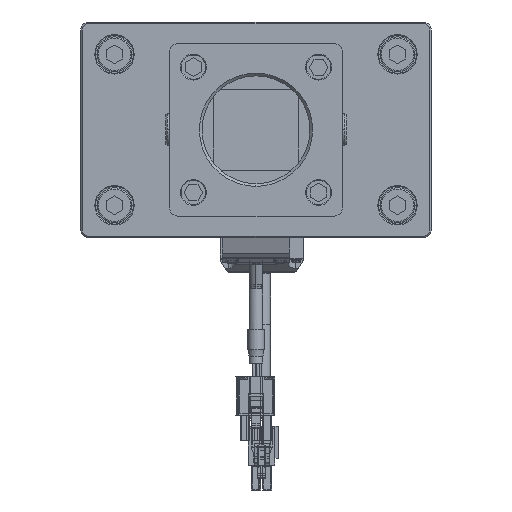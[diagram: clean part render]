
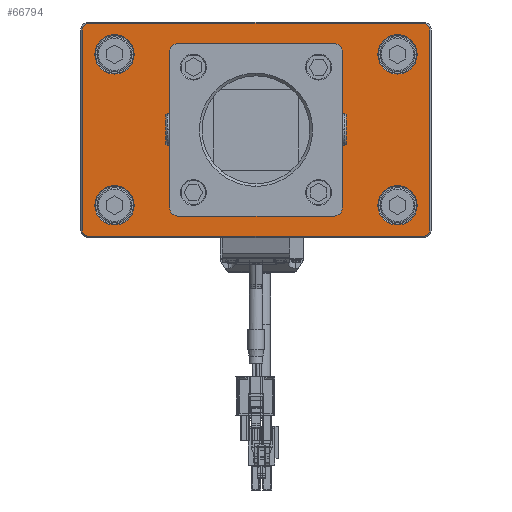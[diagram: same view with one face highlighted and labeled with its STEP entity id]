
A CAD part, front view. The second image highlights one B-rep face of the part: STEP entity #66794.
In plain terms, the highlighted planar face has unit normal (0, -1, 0) as drawn and (0, 1, 0) by its records, which use the part's own axes.
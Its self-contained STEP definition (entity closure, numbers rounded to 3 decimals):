
#65246=CARTESIAN_POINT('',(0.,7.,0.));
#65247=DIRECTION('',(0.,-1.,0.));
#65248=DIRECTION('',(1.,0.,0.));
#65249=AXIS2_PLACEMENT_3D('',#65246,#65247,#65248);
#65251=CARTESIAN_POINT('',(0.,7.,0.));
#65252=DIRECTION('',(0.,-1.,0.));
#65253=DIRECTION('',(-1.,0.,0.));
#65254=AXIS2_PLACEMENT_3D('',#65251,#65252,#65253);
#65256=CARTESIAN_POINT('',(-62.,7.,-37.));
#65257=DIRECTION('',(0.,1.,0.));
#65258=DIRECTION('',(0.,0.,-1.));
#65259=AXIS2_PLACEMENT_3D('',#65256,#65257,#65258);
#65261=DIRECTION('',(-1.,0.,0.));
#65262=VECTOR('',#65261,124.);
#65263=CARTESIAN_POINT('',(62.,7.,
-39.5));
#65264=LINE('',#65263,#65262);
#65265=CARTESIAN_POINT('',(62.,7.,-37.));
#65266=DIRECTION('',(0.,1.,0.));
#65267=DIRECTION('',(1.,0.,0.));
#65268=AXIS2_PLACEMENT_3D('',#65265,#65266,#65267);
#65270=DIRECTION('',(0.,0.,-1.));
#65271=VECTOR('',#65270,74.);
#65272=CARTESIAN_POINT('',(64.5,7.,37.));
#65273=LINE('',#65272,#65271);
#65274=CARTESIAN_POINT('',(62.,7.,37.));
#65275=DIRECTION('',(0.,1.,0.));
#65276=DIRECTION('',(0.,0.,1.));
#65277=AXIS2_PLACEMENT_3D('',#65274,#65275,#65276);
#65279=DIRECTION('',(1.,0.,0.));
#65280=VECTOR('',#65279,124.);
#65281=CARTESIAN_POINT('',(-62.,7.,
39.5));
#65282=LINE('',#65281,#65280);
#65283=CARTESIAN_POINT('',(-62.,7.,37.));
#65284=DIRECTION('',(0.,1.,0.));
#65285=DIRECTION('',(-1.,0.,0.));
#65286=AXIS2_PLACEMENT_3D('',#65283,#65284,#65285);
#65288=DIRECTION('',(0.,0.,1.));
#65289=VECTOR('',#65288,74.);
#65290=CARTESIAN_POINT('',(-64.5,7.,
-37.));
#65291=LINE('',#65290,#65289);
#65292=CARTESIAN_POINT('',(52.5,7.,28.));
#65293=DIRECTION('',(0.,-1.,0.));
#65294=DIRECTION('',(1.,0.,0.));
#65295=AXIS2_PLACEMENT_3D('',#65292,#65293,#65294);
#65297=CARTESIAN_POINT('',(52.5,7.,28.));
#65298=DIRECTION('',(0.,-1.,0.));
#65299=DIRECTION('',(-1.,0.,0.));
#65300=AXIS2_PLACEMENT_3D('',#65297,#65298,#65299);
#65302=CARTESIAN_POINT('',(-52.5,7.,28.));
#65303=DIRECTION('',(0.,-1.,0.));
#65304=DIRECTION('',(1.,0.,0.));
#65305=AXIS2_PLACEMENT_3D('',#65302,#65303,#65304);
#65307=CARTESIAN_POINT('',(-52.5,7.,28.));
#65308=DIRECTION('',(0.,-1.,0.));
#65309=DIRECTION('',(-1.,0.,0.));
#65310=AXIS2_PLACEMENT_3D('',#65307,#65308,#65309);
#65312=CARTESIAN_POINT('',(52.5,7.,-28.));
#65313=DIRECTION('',(0.,-1.,0.));
#65314=DIRECTION('',(1.,0.,0.));
#65315=AXIS2_PLACEMENT_3D('',#65312,#65313,#65314);
#65317=CARTESIAN_POINT('',(52.5,7.,-28.));
#65318=DIRECTION('',(0.,-1.,0.));
#65319=DIRECTION('',(-1.,0.,0.));
#65320=AXIS2_PLACEMENT_3D('',#65317,#65318,#65319);
#65322=CARTESIAN_POINT('',(-52.5,7.,-28.));
#65323=DIRECTION('',(0.,-1.,0.));
#65324=DIRECTION('',(1.,0.,0.));
#65325=AXIS2_PLACEMENT_3D('',#65322,#65323,#65324);
#65327=CARTESIAN_POINT('',(-52.5,7.,-28.));
#65328=DIRECTION('',(0.,-1.,0.));
#65329=DIRECTION('',(-1.,0.,0.));
#65330=AXIS2_PLACEMENT_3D('',#65327,#65328,#65329);
#65332=CARTESIAN_POINT('',(-23.25,7.,-23.25));
#65333=DIRECTION('',(0.,1.,0.));
#65334=DIRECTION('',(1.,0.,0.));
#65335=AXIS2_PLACEMENT_3D('',#65332,#65333,#65334);
#65337=CARTESIAN_POINT('',(-23.25,7.,-23.25));
#65338=DIRECTION('',(0.,1.,0.));
#65339=DIRECTION('',(-1.,0.,0.));
#65340=AXIS2_PLACEMENT_3D('',#65337,#65338,#65339);
#65342=CARTESIAN_POINT('',(-23.25,7.,23.25));
#65343=DIRECTION('',(0.,1.,0.));
#65344=DIRECTION('',(0.,0.,-1.));
#65345=AXIS2_PLACEMENT_3D('',#65342,#65343,#65344);
#65347=CARTESIAN_POINT('',(-23.25,7.,23.25));
#65348=DIRECTION('',(0.,1.,0.));
#65349=DIRECTION('',(0.,0.,1.));
#65350=AXIS2_PLACEMENT_3D('',#65347,#65348,#65349);
#65352=CARTESIAN_POINT('',(23.25,7.,23.25));
#65353=DIRECTION('',(0.,1.,0.));
#65354=DIRECTION('',(-1.,0.,0.));
#65355=AXIS2_PLACEMENT_3D('',#65352,#65353,#65354);
#65357=CARTESIAN_POINT('',(23.25,7.,23.25));
#65358=DIRECTION('',(0.,1.,0.));
#65359=DIRECTION('',(1.,0.,0.));
#65360=AXIS2_PLACEMENT_3D('',#65357,#65358,#65359);
#65362=CARTESIAN_POINT('',(23.25,7.,-23.25));
#65363=DIRECTION('',(0.,1.,0.));
#65364=DIRECTION('',(0.,0.,1.));
#65365=AXIS2_PLACEMENT_3D('',#65362,#65363,#65364);
#65367=CARTESIAN_POINT('',(23.25,7.,-23.25));
#65368=DIRECTION('',(0.,1.,0.));
#65369=DIRECTION('',(0.,0.,-1.));
#65370=AXIS2_PLACEMENT_3D('',#65367,#65368,#65369);
#66278=CARTESIAN_POINT('',(23.,7.,0.));
#66279=CARTESIAN_POINT('',(-23.,7.,0.));
#66280=VERTEX_POINT('',#66278);
#66281=VERTEX_POINT('',#66279);
#66326=CARTESIAN_POINT('',(-62.,7.,-39.5));
#66327=CARTESIAN_POINT('',(-64.5,7.,-37.));
#66328=VERTEX_POINT('',#66326);
#66329=VERTEX_POINT('',#66327);
#66334=CARTESIAN_POINT('',(-64.5,7.,
37.));
#66335=VERTEX_POINT('',#66334);
#66338=CARTESIAN_POINT('',(-62.,7.,39.5));
#66339=VERTEX_POINT('',#66338);
#66342=CARTESIAN_POINT('',(62.,7.,39.5));
#66343=VERTEX_POINT('',#66342);
#66346=CARTESIAN_POINT('',(64.5,7.,37.));
#66347=VERTEX_POINT('',#66346);
#66350=CARTESIAN_POINT('',(64.5,7.,
-37.));
#66351=VERTEX_POINT('',#66350);
#66354=CARTESIAN_POINT('',(62.,7.,-39.5));
#66355=VERTEX_POINT('',#66354);
#66374=CARTESIAN_POINT('',(59.8,7.,28.));
#66375=CARTESIAN_POINT('',(45.2,7.,28.));
#66376=VERTEX_POINT('',#66374);
#66377=VERTEX_POINT('',#66375);
#66398=CARTESIAN_POINT('',(-45.2,7.,28.));
#66399=CARTESIAN_POINT('',(-59.8,7.,28.));
#66400=VERTEX_POINT('',#66398);
#66401=VERTEX_POINT('',#66399);
#66414=CARTESIAN_POINT('',(59.8,7.,-28.));
#66415=CARTESIAN_POINT('',(45.2,7.,-28.));
#66416=VERTEX_POINT('',#66414);
#66417=VERTEX_POINT('',#66415);
#66422=CARTESIAN_POINT('',(-45.2,7.,-28.));
#66423=CARTESIAN_POINT('',(-59.8,7.,-28.));
#66424=VERTEX_POINT('',#66422);
#66425=VERTEX_POINT('',#66423);
#66522=CARTESIAN_POINT('',(-19.25,7.,-23.25));
#66523=CARTESIAN_POINT('',(-27.25,7.,-23.25));
#66524=VERTEX_POINT('',#66522);
#66525=VERTEX_POINT('',#66523);
#66530=CARTESIAN_POINT('',(-23.25,7.,19.25));
#66531=CARTESIAN_POINT('',(-23.25,7.,27.25));
#66532=VERTEX_POINT('',#66530);
#66533=VERTEX_POINT('',#66531);
#66538=CARTESIAN_POINT('',(19.25,7.,23.25));
#66539=CARTESIAN_POINT('',(27.25,7.,23.25));
#66540=VERTEX_POINT('',#66538);
#66541=VERTEX_POINT('',#66539);
#66546=CARTESIAN_POINT('',(23.25,7.,-19.25));
#66547=CARTESIAN_POINT('',(23.25,7.,-27.25));
#66548=VERTEX_POINT('',#66546);
#66549=VERTEX_POINT('',#66547);
#66718=CARTESIAN_POINT('',(0.,7.,0.));
#66719=DIRECTION('',(0.,1.,0.));
#66720=DIRECTION('',(1.,0.,0.));
#66721=AXIS2_PLACEMENT_3D('',#66718,#66719,#66720);
#66722=PLANE('',#66721);
#66724=ORIENTED_EDGE('',*,*,#66723,.F.);
#66726=ORIENTED_EDGE('',*,*,#66725,.F.);
#66728=ORIENTED_EDGE('',*,*,#66727,.F.);
#66730=ORIENTED_EDGE('',*,*,#66729,.F.);
#66732=ORIENTED_EDGE('',*,*,#66731,.F.);
#66734=ORIENTED_EDGE('',*,*,#66733,.F.);
#66736=ORIENTED_EDGE('',*,*,#66735,.F.);
#66738=ORIENTED_EDGE('',*,*,#66737,.F.);
#66739=EDGE_LOOP('',(#66724,#66726,#66728,#66730,#66732,#66734,#66736,#66738));
#66740=FACE_OUTER_BOUND('',#66739,.F.);
#66742=ORIENTED_EDGE('',*,*,#66741,.F.);
#66743=ORIENTED_EDGE('',*,*,#66708,.F.);
#66744=EDGE_LOOP('',(#66742,#66743));
#66745=FACE_BOUND('',#66744,.F.);
#66747=ORIENTED_EDGE('',*,*,#66746,.F.);
#66749=ORIENTED_EDGE('',*,*,#66748,.F.);
#66750=EDGE_LOOP('',(#66747,#66749));
#66751=FACE_BOUND('',#66750,.F.);
#66753=ORIENTED_EDGE('',*,*,#66752,.F.);
#66755=ORIENTED_EDGE('',*,*,#66754,.F.);
#66756=EDGE_LOOP('',(#66753,#66755));
#66757=FACE_BOUND('',#66756,.F.);
#66759=ORIENTED_EDGE('',*,*,#66758,.F.);
#66761=ORIENTED_EDGE('',*,*,#66760,.F.);
#66762=EDGE_LOOP('',(#66759,#66761));
#66763=FACE_BOUND('',#66762,.F.);
#66765=ORIENTED_EDGE('',*,*,#66764,.F.);
#66767=ORIENTED_EDGE('',*,*,#66766,.F.);
#66768=EDGE_LOOP('',(#66765,#66767));
#66769=FACE_BOUND('',#66768,.F.);
#66771=ORIENTED_EDGE('',*,*,#66770,.T.);
#66773=ORIENTED_EDGE('',*,*,#66772,.T.);
#66774=EDGE_LOOP('',(#66771,#66773));
#66775=FACE_BOUND('',#66774,.F.);
#66777=ORIENTED_EDGE('',*,*,#66776,.T.);
#66779=ORIENTED_EDGE('',*,*,#66778,.T.);
#66780=EDGE_LOOP('',(#66777,#66779));
#66781=FACE_BOUND('',#66780,.F.);
#66783=ORIENTED_EDGE('',*,*,#66782,.T.);
#66785=ORIENTED_EDGE('',*,*,#66784,.T.);
#66786=EDGE_LOOP('',(#66783,#66785));
#66787=FACE_BOUND('',#66786,.F.);
#66789=ORIENTED_EDGE('',*,*,#66788,.T.);
#66791=ORIENTED_EDGE('',*,*,#66790,.T.);
#66792=EDGE_LOOP('',(#66789,#66791));
#66793=FACE_BOUND('',#66792,.F.);
#66794=ADVANCED_FACE('',(#66740,#66745,#66751,#66757,#66763,#66769,#66775,
#66781,#66787,#66793),#66722,.T.);
#65250=CIRCLE('',#65249,23.);
#65255=CIRCLE('',#65254,23.);
#65260=CIRCLE('',#65259,2.5);
#65269=CIRCLE('',#65268,2.5);
#65278=CIRCLE('',#65277,2.5);
#65287=CIRCLE('',#65286,2.5);
#65296=CIRCLE('',#65295,7.3);
#65301=CIRCLE('',#65300,7.3);
#65306=CIRCLE('',#65305,7.3);
#65311=CIRCLE('',#65310,7.3);
#65316=CIRCLE('',#65315,7.3);
#65321=CIRCLE('',#65320,7.3);
#65326=CIRCLE('',#65325,7.3);
#65331=CIRCLE('',#65330,7.3);
#65336=CIRCLE('',#65335,4.);
#65341=CIRCLE('',#65340,4.);
#65346=CIRCLE('',#65345,4.);
#65351=CIRCLE('',#65350,4.);
#65356=CIRCLE('',#65355,4.);
#65361=CIRCLE('',#65360,4.);
#65366=CIRCLE('',#65365,4.);
#65371=CIRCLE('',#65370,4.);
#66708=EDGE_CURVE('',#66281,#66280,#65255,.T.);
#66723=EDGE_CURVE('',#66328,#66329,#65260,.T.);
#66725=EDGE_CURVE('',#66355,#66328,#65264,.T.);
#66727=EDGE_CURVE('',#66351,#66355,#65269,.T.);
#66729=EDGE_CURVE('',#66347,#66351,#65273,.T.);
#66731=EDGE_CURVE('',#66343,#66347,#65278,.T.);
#66733=EDGE_CURVE('',#66339,#66343,#65282,.T.);
#66735=EDGE_CURVE('',#66335,#66339,#65287,.T.);
#66737=EDGE_CURVE('',#66329,#66335,#65291,.T.);
#66741=EDGE_CURVE('',#66280,#66281,#65250,.T.);
#66746=EDGE_CURVE('',#66376,#66377,#65296,.T.);
#66748=EDGE_CURVE('',#66377,#66376,#65301,.T.);
#66752=EDGE_CURVE('',#66400,#66401,#65306,.T.);
#66754=EDGE_CURVE('',#66401,#66400,#65311,.T.);
#66758=EDGE_CURVE('',#66416,#66417,#65316,.T.);
#66760=EDGE_CURVE('',#66417,#66416,#65321,.T.);
#66764=EDGE_CURVE('',#66424,#66425,#65326,.T.);
#66766=EDGE_CURVE('',#66425,#66424,#65331,.T.);
#66770=EDGE_CURVE('',#66524,#66525,#65336,.T.);
#66772=EDGE_CURVE('',#66525,#66524,#65341,.T.);
#66776=EDGE_CURVE('',#66532,#66533,#65346,.T.);
#66778=EDGE_CURVE('',#66533,#66532,#65351,.T.);
#66782=EDGE_CURVE('',#66540,#66541,#65356,.T.);
#66784=EDGE_CURVE('',#66541,#66540,#65361,.T.);
#66788=EDGE_CURVE('',#66548,#66549,#65366,.T.);
#66790=EDGE_CURVE('',#66549,#66548,#65371,.T.);
